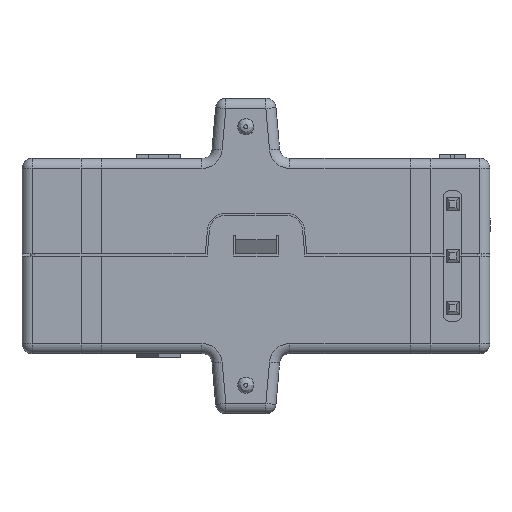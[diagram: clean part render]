
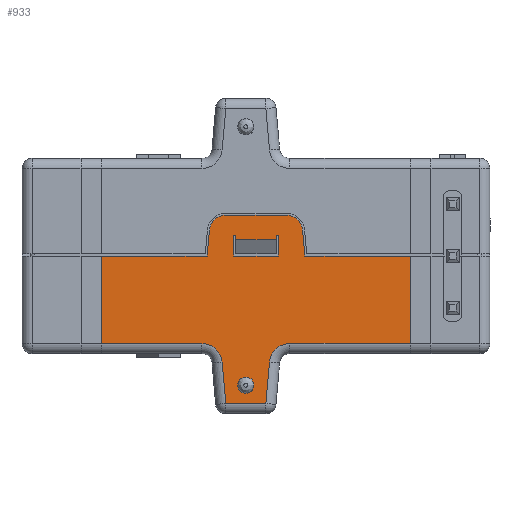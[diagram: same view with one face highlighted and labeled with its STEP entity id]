
A CAD part, left-side view. The second image highlights one B-rep face of the part: STEP entity #933.
In plain terms, the highlighted planar face has unit normal (-1, 0, 0).
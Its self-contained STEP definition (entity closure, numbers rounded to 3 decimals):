
#933=ADVANCED_FACE('',(#1363,#1364,#1365),#1114,.T.);
#1114=PLANE('',#5817);
#1295=CIRCLE('',#5741,1.);
#1299=CIRCLE('',#5749,1.);
#1310=CIRCLE('',#5780,0.8);
#1311=CIRCLE('',#5783,0.8);
#1314=CIRCLE('',#5801,0.4);
#1363=FACE_BOUND('',#1645,.T.);
#1364=FACE_BOUND('',#1646,.T.);
#1365=FACE_BOUND('',#1647,.T.);
#1645=EDGE_LOOP('',(#2933,#2934,#2935,#2936,#2937,#2938,#2939,#2940));
#1646=EDGE_LOOP('',(#2941));
#1647=EDGE_LOOP('',(#2942,#2943,#2944,#2945,#2946,#2947,#2948,#2949,#2950,
#2951,#2952,#2953,#2954,#2955,#2956,#2957));
#2933=ORIENTED_EDGE('',*,*,#4242,.T.);
#2934=ORIENTED_EDGE('',*,*,#4244,.T.);
#2935=ORIENTED_EDGE('',*,*,#4209,.T.);
#2936=ORIENTED_EDGE('',*,*,#4211,.T.);
#2937=ORIENTED_EDGE('',*,*,#3961,.T.);
#2938=ORIENTED_EDGE('',*,*,#4204,.T.);
#2939=ORIENTED_EDGE('',*,*,#3948,.T.);
#2940=ORIENTED_EDGE('',*,*,#4245,.T.);
#2941=ORIENTED_EDGE('',*,*,#4222,.T.);
#2942=ORIENTED_EDGE('',*,*,#4155,.T.);
#2943=ORIENTED_EDGE('',*,*,#4152,.T.);
#2944=ORIENTED_EDGE('',*,*,#4151,.T.);
#2945=ORIENTED_EDGE('',*,*,#4150,.T.);
#2946=ORIENTED_EDGE('',*,*,#4148,.T.);
#2947=ORIENTED_EDGE('',*,*,#4147,.T.);
#2948=ORIENTED_EDGE('',*,*,#4156,.F.);
#2949=ORIENTED_EDGE('',*,*,#3997,.T.);
#2950=ORIENTED_EDGE('',*,*,#4196,.F.);
#2951=ORIENTED_EDGE('',*,*,#4199,.F.);
#2952=ORIENTED_EDGE('',*,*,#4200,.F.);
#2953=ORIENTED_EDGE('',*,*,#4203,.F.);
#2954=ORIENTED_EDGE('',*,*,#4212,.F.);
#2955=ORIENTED_EDGE('',*,*,#3988,.T.);
#2956=ORIENTED_EDGE('',*,*,#4213,.F.);
#2957=ORIENTED_EDGE('',*,*,#4159,.T.);
#3373=VERTEX_POINT('',#8100);
#3374=VERTEX_POINT('',#8102);
#3384=VERTEX_POINT('',#8125);
#3386=VERTEX_POINT('',#8129);
#3403=VERTEX_POINT('',#8171);
#3410=VERTEX_POINT('',#8185);
#3417=VERTEX_POINT('',#8204);
#3418=VERTEX_POINT('',#8206);
#3468=VERTEX_POINT('',#8355);
#3469=VERTEX_POINT('',#8359);
#3506=VERTEX_POINT('',#8523);
#3508=VERTEX_POINT('',#8527);
#3509=VERTEX_POINT('',#8531);
#3510=VERTEX_POINT('',#8539);
#3511=VERTEX_POINT('',#8543);
#3513=VERTEX_POINT('',#8552);
#3532=VERTEX_POINT('',#8625);
#3533=VERTEX_POINT('',#8629);
#3534=VERTEX_POINT('',#8633);
#3535=VERTEX_POINT('',#8637);
#3537=VERTEX_POINT('',#8645);
#3539=VERTEX_POINT('',#8649);
#3542=VERTEX_POINT('',#8707);
#3554=VERTEX_POINT('',#8751);
#3555=VERTEX_POINT('',#8753);
#3948=EDGE_CURVE('',#3374,#3373,#4569,.T.);
#3961=EDGE_CURVE('',#3384,#3386,#4582,.T.);
#3988=EDGE_CURVE('',#3403,#3410,#4606,.T.);
#3997=EDGE_CURVE('',#3418,#3417,#4613,.T.);
#4147=EDGE_CURVE('',#3506,#3508,#4714,.T.);
#4148=EDGE_CURVE('',#3509,#3506,#1295,.T.);
#4150=EDGE_CURVE('',#3468,#3509,#4715,.T.);
#4151=EDGE_CURVE('',#3469,#3468,#4716,.T.);
#4152=EDGE_CURVE('',#3510,#3469,#4717,.T.);
#4155=EDGE_CURVE('',#3511,#3510,#1299,.T.);
#4156=EDGE_CURVE('',#3418,#3508,#4718,.T.);
#4159=EDGE_CURVE('',#3513,#3511,#4721,.T.);
#4196=EDGE_CURVE('',#3532,#3417,#4748,.T.);
#4199=EDGE_CURVE('',#3533,#3532,#1310,.T.);
#4200=EDGE_CURVE('',#3534,#3533,#4751,.T.);
#4203=EDGE_CURVE('',#3535,#3534,#1311,.T.);
#4204=EDGE_CURVE('',#3386,#3374,#4754,.T.);
#4209=EDGE_CURVE('',#3537,#3539,#4759,.T.);
#4211=EDGE_CURVE('',#3539,#3384,#4761,.T.);
#4212=EDGE_CURVE('',#3403,#3535,#4762,.T.);
#4213=EDGE_CURVE('',#3513,#3410,#4763,.T.);
#4222=EDGE_CURVE('',#3542,#3542,#1314,.T.);
#4242=EDGE_CURVE('',#3555,#3554,#4788,.T.);
#4244=EDGE_CURVE('',#3554,#3537,#4790,.T.);
#4245=EDGE_CURVE('',#3373,#3555,#4791,.T.);
#4569=LINE('',#8101,#5115);
#4582=LINE('',#8130,#5128);
#4606=LINE('',#8186,#5152);
#4613=LINE('',#8205,#5159);
#4714=LINE('',#8528,#5260);
#4715=LINE('',#8534,#5261);
#4716=LINE('',#8536,#5262);
#4717=LINE('',#8538,#5263);
#4718=LINE('',#8546,#5264);
#4721=LINE('',#8551,#5267);
#4748=LINE('',#8624,#5294);
#4751=LINE('',#8632,#5297);
#4754=LINE('',#8640,#5300);
#4759=LINE('',#8650,#5305);
#4761=LINE('',#8653,#5307);
#4762=LINE('',#8656,#5308);
#4763=LINE('',#8658,#5309);
#4788=LINE('',#8752,#5334);
#4790=LINE('',#8756,#5336);
#4791=LINE('',#8757,#5337);
#5115=VECTOR('',#6560,1.);
#5128=VECTOR('',#6579,1.);
#5152=VECTOR('',#6619,1.);
#5159=VECTOR('',#6636,1.);
#5260=VECTOR('',#6951,1.);
#5261=VECTOR('',#6960,1.);
#5262=VECTOR('',#6963,1.);
#5263=VECTOR('',#6966,1.);
#5264=VECTOR('',#6977,1.);
#5267=VECTOR('',#6982,1.);
#5294=VECTOR('',#7063,1.);
#5297=VECTOR('',#7072,1.);
#5300=VECTOR('',#7081,1.);
#5305=VECTOR('',#7088,1.);
#5307=VECTOR('',#7092,1.);
#5308=VECTOR('',#7097,1.);
#5309=VECTOR('',#7100,1.);
#5334=VECTOR('',#7177,1.);
#5336=VECTOR('',#7181,1.);
#5337=VECTOR('',#7182,1.);
#5741=AXIS2_PLACEMENT_3D('',#8530,#6954,#6955);
#5749=AXIS2_PLACEMENT_3D('',#8544,#6973,#6974);
#5780=AXIS2_PLACEMENT_3D('',#8630,#7068,#7069);
#5783=AXIS2_PLACEMENT_3D('',#8638,#7077,#7078);
#5801=AXIS2_PLACEMENT_3D('',#8706,#7129,#7130);
#5817=AXIS2_PLACEMENT_3D('',#8758,#7183,#7184);
#6560=DIRECTION('',(0.,-1.,0.));
#6579=DIRECTION('',(0.,1.,0.));
#6619=DIRECTION('',(0.,1.,0.));
#6636=DIRECTION('',(0.,1.,0.));
#6951=DIRECTION('',(0.,-1.,0.));
#6954=DIRECTION('',(1.,0.,0.));
#6955=DIRECTION('',(0.,0.,-1.));
#6960=DIRECTION('',(0.,-0.087,0.996));
#6963=DIRECTION('',(0.,-1.,0.));
#6966=DIRECTION('',(0.,-0.087,-0.996));
#6973=DIRECTION('',(1.,0.,0.));
#6974=DIRECTION('',(0.,0.,-1.));
#6977=DIRECTION('',(0.,0.,-1.));
#6982=DIRECTION('',(0.,-1.,0.));
#7063=DIRECTION('',(0.,-0.087,-0.996));
#7068=DIRECTION('',(1.,0.,0.));
#7069=DIRECTION('',(0.,1.,0.));
#7072=DIRECTION('',(0.,-1.,0.));
#7077=DIRECTION('',(1.,0.,0.));
#7078=DIRECTION('',(0.,1.,0.));
#7081=DIRECTION('',(0.,0.,1.));
#7088=DIRECTION('',(0.,-1.,0.));
#7092=DIRECTION('',(0.,0.,-1.));
#7097=DIRECTION('',(0.,-0.087,0.996));
#7100=DIRECTION('',(0.,0.,1.));
#7129=DIRECTION('',(1.,0.,0.));
#7130=DIRECTION('',(0.,0.,-1.));
#7177=DIRECTION('',(0.,-1.,0.));
#7181=DIRECTION('',(0.,0.,1.));
#7182=DIRECTION('',(0.,0.,-1.));
#7183=DIRECTION('',(-1.,0.,0.));
#7184=DIRECTION('',(0.,-1.,0.));
#8100=CARTESIAN_POINT('',(-11.8,-1.5,5.3));
#8101=CARTESIAN_POINT('',(-11.8,-8.,5.3));
#8102=CARTESIAN_POINT('',(-11.8,-1.4,5.3));
#8125=CARTESIAN_POINT('',(-11.8,-3.6,4.3));
#8129=CARTESIAN_POINT('',(-11.8,-1.4,4.3));
#8130=CARTESIAN_POINT('',(-11.8,-6.21,4.3));
#8171=CARTESIAN_POINT('',(-11.8,-0.1,4.3));
#8185=CARTESIAN_POINT('',(-11.8,5.1,4.3));
#8186=CARTESIAN_POINT('',(-11.8,-6.21,4.3));
#8204=CARTESIAN_POINT('',(-11.8,-4.901,4.3));
#8205=CARTESIAN_POINT('',(-11.8,-6.21,4.3));
#8206=CARTESIAN_POINT('',(-11.8,-10.1,4.3));
#8355=CARTESIAN_POINT('',(-11.8,-2.984,-2.95));
#8359=CARTESIAN_POINT('',(-11.8,-1.016,-2.95));
#8523=CARTESIAN_POINT('',(-11.8,-4.158,0.));
#8527=CARTESIAN_POINT('',(-11.8,-10.1,0.));
#8528=CARTESIAN_POINT('',(-11.8,-11.71,0.));
#8530=CARTESIAN_POINT('',(-11.8,-4.158,-1.));
#8531=CARTESIAN_POINT('',(-11.8,-3.162,-0.913));
#8534=CARTESIAN_POINT('',(-11.8,-3.289,0.538));
#8536=CARTESIAN_POINT('',(-11.8,-3.4,-2.95));
#8538=CARTESIAN_POINT('',(-11.8,-0.798,-0.456));
#8539=CARTESIAN_POINT('',(-11.8,-0.838,-0.913));
#8543=CARTESIAN_POINT('',(-11.8,0.158,0.));
#8544=CARTESIAN_POINT('',(-11.8,0.158,-1.));
#8546=CARTESIAN_POINT('',(-11.8,-10.1,0.3));
#8551=CARTESIAN_POINT('',(-11.8,-11.71,0.));
#8552=CARTESIAN_POINT('',(-11.8,5.1,0.));
#8624=CARTESIAN_POINT('',(-11.8,-5.511,-2.68));
#8625=CARTESIAN_POINT('',(-11.8,-4.79,5.57));
#8629=CARTESIAN_POINT('',(-11.8,-3.993,6.3));
#8630=CARTESIAN_POINT('',(-11.8,-3.993,5.5));
#8632=CARTESIAN_POINT('',(-11.8,-0.5,6.3));
#8633=CARTESIAN_POINT('',(-11.8,-1.008,6.3));
#8637=CARTESIAN_POINT('',(-11.8,-0.211,5.57));
#8638=CARTESIAN_POINT('',(-11.8,-1.008,5.5));
#8640=CARTESIAN_POINT('',(-11.8,-1.4,-2.445));
#8645=CARTESIAN_POINT('',(-11.8,-3.5,5.3));
#8649=CARTESIAN_POINT('',(-11.8,-3.6,5.3));
#8650=CARTESIAN_POINT('',(-11.8,-8.,5.3));
#8653=CARTESIAN_POINT('',(-11.8,-3.6,-2.445));
#8656=CARTESIAN_POINT('',(-11.8,0.429,-1.743));
#8658=CARTESIAN_POINT('',(-11.8,5.1,0.3));
#8706=CARTESIAN_POINT('',(-11.8,-2.,-2.05));
#8707=CARTESIAN_POINT('',(-11.8,-2.,-2.45));
#8751=CARTESIAN_POINT('',(-11.8,-3.5,5.1));
#8752=CARTESIAN_POINT('',(-11.8,-2.5,5.1));
#8753=CARTESIAN_POINT('',(-11.8,-1.5,5.1));
#8756=CARTESIAN_POINT('',(-11.8,-3.5,4.68));
#8757=CARTESIAN_POINT('',(-11.8,-1.5,4.68));
#8758=CARTESIAN_POINT('',(-11.8,13.5,4.68));
